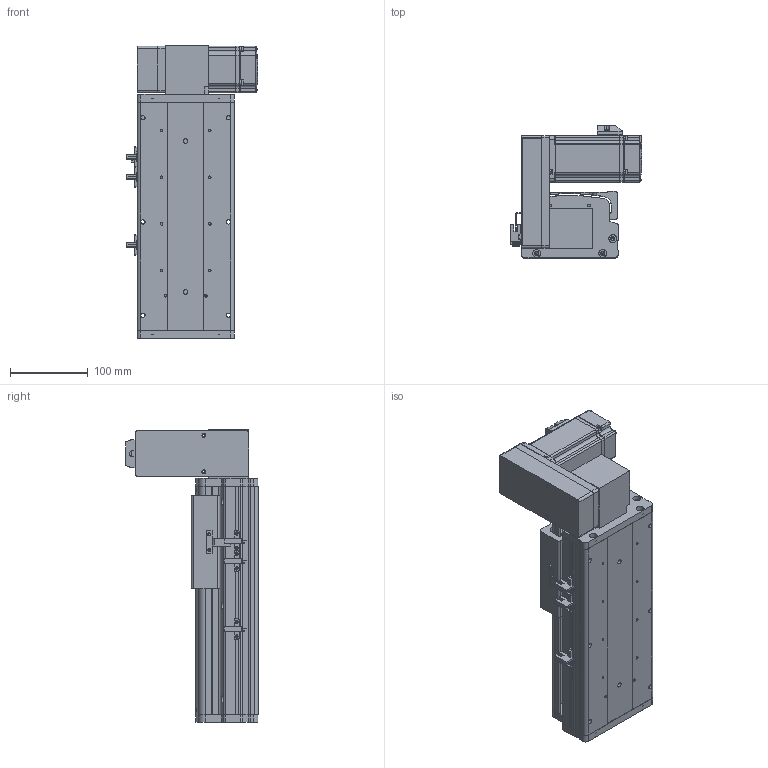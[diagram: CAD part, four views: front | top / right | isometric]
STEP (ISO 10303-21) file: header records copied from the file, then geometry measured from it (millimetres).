
FILE_DESCRIPTION (( 'STEP AP214' ), '1' );
FILE_NAME ('KSD125B-S100-MRU-CM.STEP', '2017-10-21T07:16:13', ( '微软用户' ), ( '微软中国' ), 'SwSTEP 2.0', 'SolidWorks 2014', '' );
FILE_SCHEMA (( 'AUTOMOTIVE_DESIGN' ));
Length unit declared in the file: millimetre
Products named in the file (17): 100宽马达安装板连板上下折丝杆同步带; KSD125模组100行程同步带-防尘盖; 125模组100行程同步带-底板; MHMD042G1CA_2_03; KSD125模组同步带-防撞垫2; 覜茼え68遵圉猾敕; U倰嫖萇假蚾璃; U倰嫖萇EEㄜSX672; KSD125模组同步带-防撞垫1; 100宽马达安装板同步带右; 前端板-125宽模组同步带; 125模组同步带-尾端板1; KSD125模组同步带-滑动座1; KSD125B-S100-MRU-CM; 悵誘欶奻狟殏; HTPA30S3M150_A_H6_a佪裝蚚; HTPA30S3M150_A_H6_a萇儂蚚
Assembly tree (20 placements, depth 2):
  KSD125B-S100-MRU-CM
    KSD125模组同步带-滑动座1
    125模组同步带-尾端板1
    前端板-125宽模组同步带
    100宽马达安装板同步带右
    KSD125模组同步带-防撞垫1
    U倰嫖萇EEㄜSX672  x3
    U倰嫖萇假蚾璃  x3
    覜茼え68遵圉猾敕
    KSD125模组同步带-防撞垫2
    MHMD042G1CA_2_03
    125模组100行程同步带-底板
    KSD125模组100行程同步带-防尘盖
    100宽马达安装板连板上下折丝杆同步带
    HTPA30S3M150_A_H6_a萇儂蚚
    HTPA30S3M150_A_H6_a佪裝蚚
    悵誘欶奻狟殏
Bounding box: 168.7 x 170.5 x 377 mm (x, y, z)
Volume: 1523788.2 mm3; surface area: 563342 mm2
Topology: 19 solids, 22 shells, 2181 faces, 6307 edges, 4166 vertices
Faces by surface type: cylinder 1340, plane 714, cone 105, bspline 22
Entity records: 76901 total; most frequent: CARTESIAN_POINT 15249, DIRECTION 11972, ORIENTED_EDGE 11134, EDGE_CURVE 5645, AXIS2_PLACEMENT_3D 4605, VERTEX_POINT 3758, VECTOR 2762, LINE 2762
